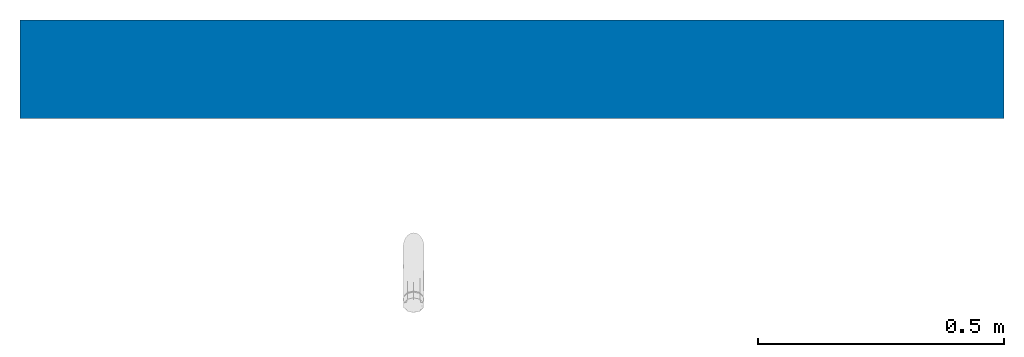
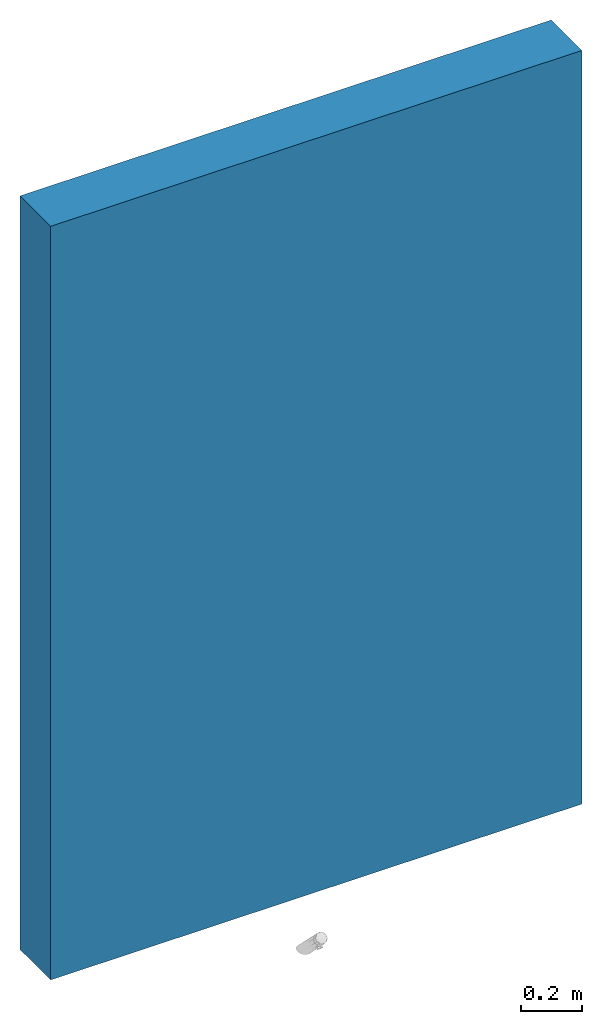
# One storey, incomplete: 1 wall.
"""IFC2X3 building model written with IfcOpenShell, lengths in millimetres."""

from ifc_helpers import new_model, entity, si_unit, converted_unit, frame, frame_2d, origin, place, context, project, spatial, rectangle, extrude, material, layer, layer_set, layer_usage, element, save


model = new_model("IFC2X3")

# Units and contexts
model_context = context("Model", 3, precision=1e-06, world=origin())
plan_context = context("Plan", 3, precision=1e-06, world=origin())
ifc_project = project(units=[si_unit("LENGTHUNIT", "METRE", prefix="MILLI"), si_unit("AREAUNIT", "SQUARE_METRE", prefix="MILLI"), si_unit("VOLUMEUNIT", "CUBIC_METRE", prefix="MILLI"), converted_unit("PLANEANGLEUNIT", "DEGREE", entity("IfcRatioMeasure", 0.01745329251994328), si_unit("PLANEANGLEUNIT", "RADIAN"), dimensions=[0, 0, 0, 0, 0, 0, 0]), si_unit("TIMEUNIT", "SECOND")], contexts=[model_context, plan_context])

# Site, building, storey
site_placement = place(None, origin())
site = spatial("IfcSite", under=ifc_project, at=site_placement, Name="Default", CompositionType="ELEMENT")
building_placement = place(site_placement, origin())
building = spatial("IfcBuilding", under=site, at=building_placement, CompositionType="ELEMENT")
storey_placement = place(building_placement, origin())
storey = spatial("IfcBuildingStorey", under=building, at=storey_placement, Name="Level 1", CompositionType="ELEMENT", Elevation=0.0)

# Wall
ifc_material = material(Name="Default Wall")
ifc_layer = layer(ifc_material, 200.0)
ifc_layer_set = layer_set([ifc_layer], Name="Basic Wall:Generic - 200mm")
ifc_layer_usage = layer_usage(ifc_layer_set, "AXIS2", "NEGATIVE", 100.0)
wall_placement = place(storey_placement, frame((-1439.564370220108, -510.9712226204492, 0.0)))
element("IfcWallStandardCase", 1, at=wall_placement, inside=storey, material=ifc_layer_usage, Name="Basic Wall:Generic - 200mm", ObjectType="Basic Wall:Generic - 200mm:398", context=model_context, shape_type="SweptSolid", body=[
    extrude(rectangle(XDim=2000.0, YDim=200.0, at=frame_2d((1000.0, 0.0), x_axis=(-1.0, 0.0))), origin(), (0.0, 0.0, 1.0), 3000.0),
])

save(model, "model.ifc")
